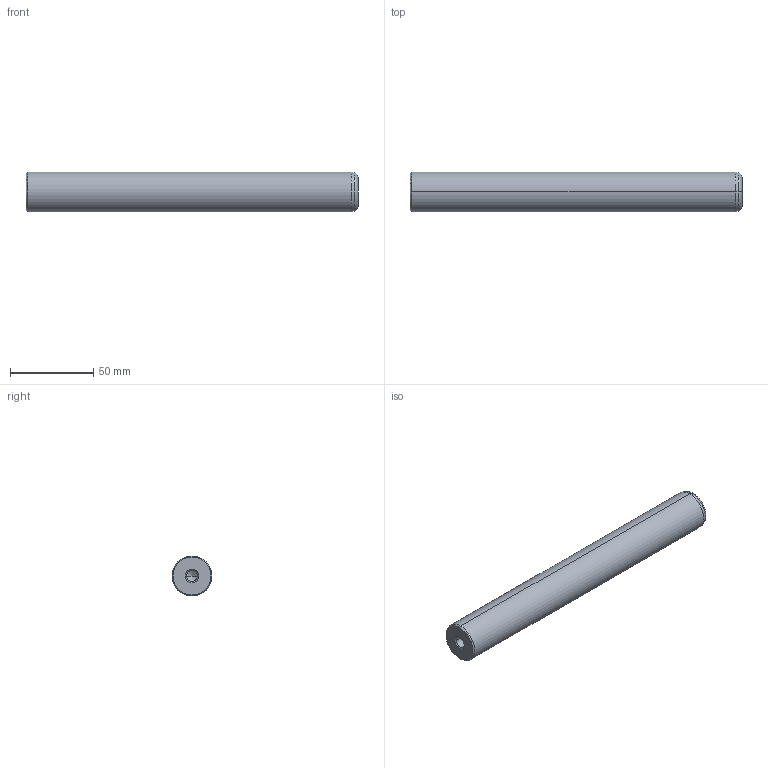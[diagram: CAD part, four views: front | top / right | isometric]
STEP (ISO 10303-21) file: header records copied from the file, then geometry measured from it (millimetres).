
FILE_DESCRIPTION(('CATIA V5 STEP Exchange'),'2;1');
FILE_NAME('C:\Users\Utente\Desktop\IO LAVORO\3D X SITO CF\X SITO\720\720-24x200.stp','2021-01-01T12:51:44+00:00',('none'),('none'),'CATIA Version 5 Release 20 GA (IN-10)','CATIA V5 STEP AP203','none');
FILE_SCHEMA(('CONFIG_CONTROL_DESIGN'));
Length unit declared in the file: millimetre
Products named in the file (1): 720-24x200
Bounding box: 200 x 24 x 24 mm (x, y, z)
Volume: 88512 mm3; surface area: 16819.7 mm2
Topology: 1 solids, 1 shells, 22 faces, 56 edges, 34 vertices
Faces by surface type: cone 12, cylinder 6, plane 2, torus 2
Entity records: 755 total; most frequent: CARTESIAN_POINT 216, ORIENTED_EDGE 104, DIRECTION 89, EDGE_CURVE 52, AXIS2_PLACEMENT_3D 50, VERTEX_POINT 34, CIRCLE 27, EDGE_LOOP 24
